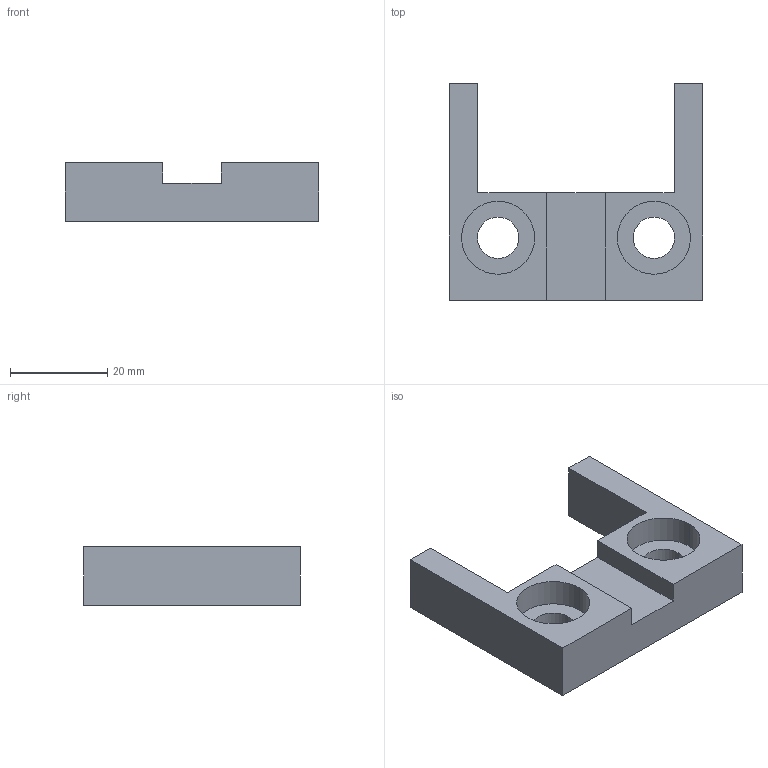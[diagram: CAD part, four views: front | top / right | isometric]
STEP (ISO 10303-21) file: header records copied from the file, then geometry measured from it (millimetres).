
FILE_DESCRIPTION (( 'STEP AP214' ), '1' );
FILE_NAME ('81015.STEP', '2020-10-27T13:10:06', ( '' ), ( '' ), 'SwSTEP 2.0', 'SolidWorks 2019', '' );
FILE_SCHEMA (( 'AUTOMOTIVE_DESIGN' ));
Length unit declared in the file: millimetre
Products named in the file (1): 81015
Bounding box: 52 x 44.4 x 12 mm (x, y, z)
Volume: 13058.6 mm3; surface area: 6390 mm2
Topology: 1 solids, 1 shells, 24 faces, 60 edges, 40 vertices
Faces by surface type: plane 16, cylinder 8
Entity records: 817 total; most frequent: DIRECTION 126, CARTESIAN_POINT 125, ORIENTED_EDGE 120, EDGE_CURVE 60, LINE 44, VECTOR 44, AXIS2_PLACEMENT_3D 41, VERTEX_POINT 40
